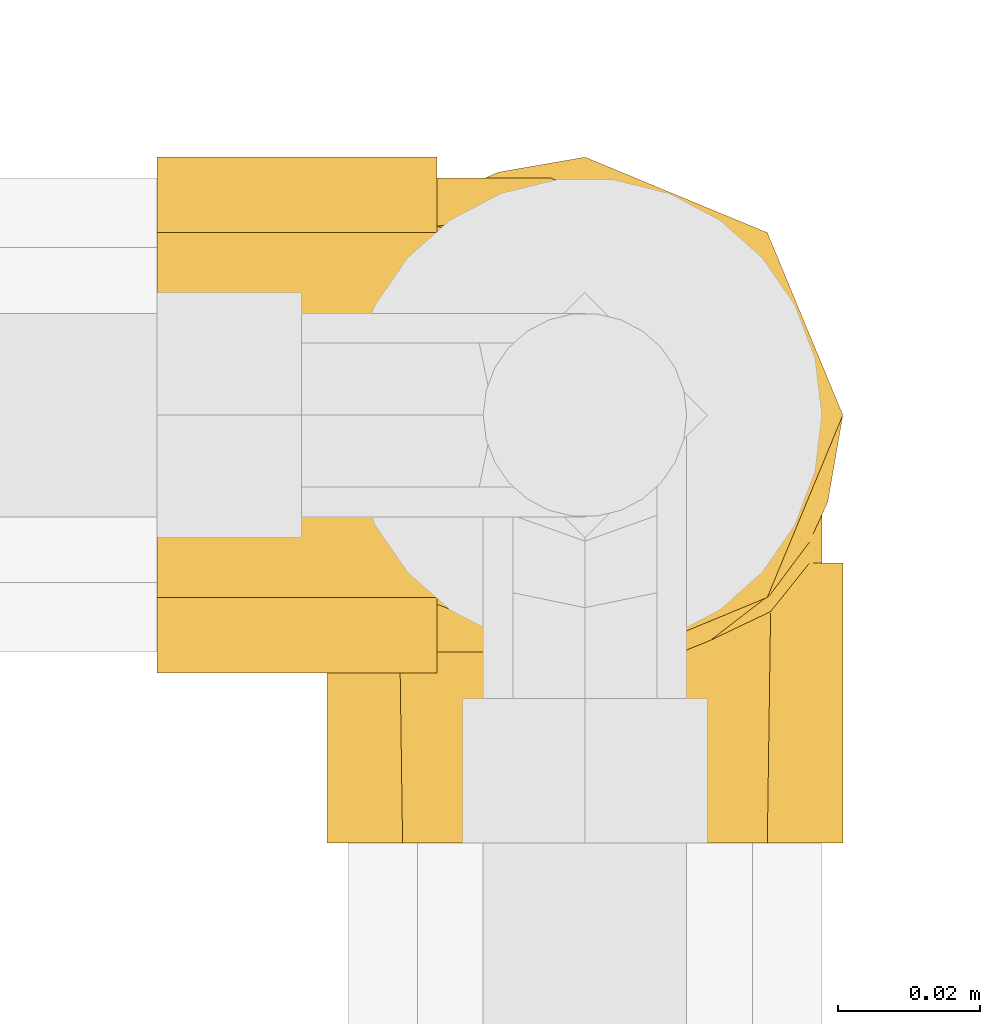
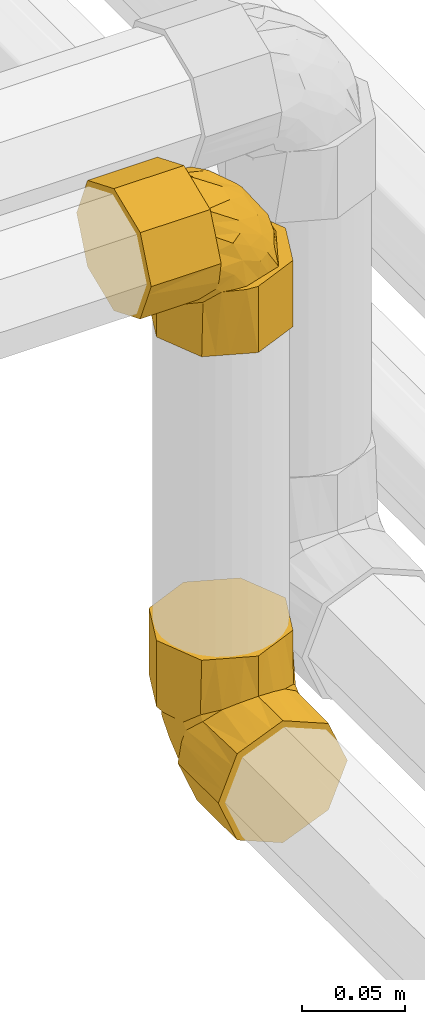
# One storey, part 264 of 652: 2 coverings.
"""IFC2X3 building model written with IfcOpenShell, lengths in millimetres."""

from ifc_helpers import new_model, entity, si_unit, converted_unit, direction, frame, origin, place, context, subcontext, project, spatial, faceted_brep, material, type_object, element, save


model = new_model("IFC2X3")

# Units and contexts
model_context = context("Model", 3, precision=0.01, world=frame((0.0, 0.0, 308426.39999999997)), true_north=direction((6.123233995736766e-17, 1.0)))
plan_context = context("Plan", 3, precision=0.01, world=frame((0.0, 0.0, 308426.39999999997)), true_north=direction((6.123233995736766e-17, 1.0)))
body_context = subcontext(model_context, "Body", "Model", "MODEL_VIEW")
ifc_project = project(units=[si_unit("LENGTHUNIT", "METRE", prefix="MILLI"), si_unit("AREAUNIT", "SQUARE_METRE"), si_unit("VOLUMEUNIT", "CUBIC_METRE"), converted_unit("PLANEANGLEUNIT", "DEGREE", entity("IfcPlaneAngleMeasure", 0.017453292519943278), si_unit("PLANEANGLEUNIT", "RADIAN"), dimensions=[0, 0, 0, 0, 0, 0, 0])], contexts=[model_context, plan_context])

# Site, building, storey
site_placement = place(None, origin())
site = spatial("IfcSite", under=ifc_project, at=site_placement, Name="Default", CompositionType="ELEMENT")
building_placement = place(site_placement, origin())
building = spatial("IfcBuilding", under=site, at=building_placement, CompositionType="ELEMENT")
storey_placement = place(building_placement, frame((0.0, 0.0, 1730.6999999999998)))
storey = spatial("IfcBuildingStorey", under=building, at=storey_placement, Name="EG_Produktion_FFB", CompositionType="ELEMENT", Elevation=1730.6999999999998)

# Coverings
ifc_material = material(Name="Dämmung - Armaflex-Schlauch")
covering_type = type_object("IfcCoveringType", Name="Rohrdämmung außen:Armaflex-Schlauch", PredefinedType="INSULATION")
covering_1_placement = place(storey_placement, frame((77519.9492499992, 68027.20272776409, 3937.7972722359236)))
element("IfcCovering", 1, at=covering_1_placement, inside=storey, type_object=covering_type, material=ifc_material, Name="Rohrdämmung außen:Armaflex-Schlauch", ObjectType="Rohrdämmung außen:Armaflex-Schlauch", PredefinedType="INSULATION", context=body_context, shape_type="Brep", body=[
    faceted_brep([(39.259249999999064, 3.715783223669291, -50.005339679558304), (39.259249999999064, 6.296879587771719, -55.63851846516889), (39.259249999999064, 4.988212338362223, -49.19061548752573), (39.259249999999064, 4.509772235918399, -42.62645720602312), (39.259249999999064, 7.8789883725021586, -34.865778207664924), (39.259249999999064, 11.248204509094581, -27.105099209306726), (39.259249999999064, 13.864245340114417, -21.079290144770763), (39.259249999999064, 16.480286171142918, -15.053481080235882), (39.259249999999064, 27.138779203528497, -11.03819792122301), (39.259249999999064, 37.79727223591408, -7.022914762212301), (39.259249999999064, 44.42865853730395, -10.462020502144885), (39.259249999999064, 51.060044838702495, -13.90112624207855), (39.259249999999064, 57.69143114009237, -17.340231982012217), (39.259249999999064, 64.32281744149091, -20.779337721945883), (39.259249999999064, 66.43186809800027, -27.593444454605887), (39.259249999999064, 68.54091875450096, -34.40755118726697), (39.259249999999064, 71.08477223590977, -42.62645720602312), (39.259249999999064, 70.60633213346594, -49.19061548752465), (39.259249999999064, 69.29766488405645, -55.63851846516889), (39.259249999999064, 73.46326541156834, -44.00386025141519), (39.259249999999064, 73.99927223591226, -37.797272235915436), (39.259249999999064, 70.84694562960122, -30.186882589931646), (39.259249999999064, 68.69761208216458, -24.99793238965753), (39.2592499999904, 66.04678200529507, -18.59826246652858), (39.259249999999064, 63.39595192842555, -12.19859254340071), (39.259249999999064, 56.996282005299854, -9.547762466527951), (39.259249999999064, 50.59661208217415, -6.8969323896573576), (39.25925000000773, 44.19694215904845, -4.246102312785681), (39.259249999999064, 37.79727223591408, -1.5952722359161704), (39.259249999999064, 30.186882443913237, -4.747598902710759), (39.259249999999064, 24.99793238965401, -6.896932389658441), (39.2592499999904, 18.598262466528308, -9.547762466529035), (39.259249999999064, 12.198592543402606, -12.19859254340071), (39.259249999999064, 9.547762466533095, -18.59826246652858), (39.259249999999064, 6.896932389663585, -24.99793238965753), (39.259249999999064, 4.2461023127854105, -31.397602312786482), (39.259249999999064, 1.5952722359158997, -37.797272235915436), (0.0, 71.3484421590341, -44.19694215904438), (0.0, 68.69761208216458, -50.59661208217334), (0.0, 66.04678200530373, -56.99628200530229), (0.0, 63.39595192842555, -63.39595192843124), (0.0, 56.996282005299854, -66.04678200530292), (0.0, 50.59661208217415, -68.6976120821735), (0.0, 44.19694215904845, -71.3484421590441), (0.0, 37.79727223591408, -73.99927223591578), (0.0, 31.397602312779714, -71.3484421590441), (0.0, 24.99793238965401, -68.69761208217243), (0.0, 18.598262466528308, -66.04678200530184), (0.0, 12.198592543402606, -63.39595192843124), (0.0, 9.547762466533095, -56.996282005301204), (0.0, 6.896932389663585, -50.59661208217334), (0.0, 4.2461023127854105, -44.19694215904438), (0.0, 1.5952722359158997, -37.797272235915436), (0.0, 4.246102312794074, -31.397602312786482), (0.0, 6.896932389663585, -24.99793238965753), (0.0, 9.547762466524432, -18.59826246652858), (0.0, 12.198592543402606, -12.19859254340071), (0.0, 22.5764918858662, -7.899925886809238), (0.0, 30.186882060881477, -4.747599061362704), (0.0, 37.79727223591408, -1.5952722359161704), (0.0, 44.19694215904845, -4.246102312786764), (0.0, 50.596612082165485, -6.896932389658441), (0.0, 56.996282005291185, -9.547762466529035), (0.0, 63.39595192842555, -12.19859254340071), (0.0, 67.69461861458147, -22.576491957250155), (0.0, 70.84694542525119, -30.186882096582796), (0.0, 73.99927223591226, -37.797272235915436), (32.46668914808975, 63.85372723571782, -62.92983988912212), (25.075941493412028, 47.14326463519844, -72.77208074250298), (28.426678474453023, 55.41836482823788, -69.42134376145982), (23.848750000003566, 37.79727223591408, -73.99927223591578), (32.46668914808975, 11.740817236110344, -62.92983988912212), (25.075941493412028, 28.451279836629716, -72.77208074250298), (28.426678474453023, 20.176179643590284, -69.42134376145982), (60.05075000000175, 1.5952722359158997, -58.588772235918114), (67.66113984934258, 4.747598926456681, -58.588772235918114), (72.85008984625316, 6.896932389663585, -58.588772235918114), (79.24975976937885, 9.547762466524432, -58.588772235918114), (85.64942969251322, 12.198592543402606, -58.588772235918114), (88.30025976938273, 18.598262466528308, -58.588772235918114), (90.9510898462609, 24.99793238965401, -58.588772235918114), (93.60191992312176, 31.39760231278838, -58.588772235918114), (96.25274999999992, 37.79727223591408, -58.588772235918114), (93.1004234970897, 45.4076616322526, -58.588772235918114), (90.9510898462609, 50.59661208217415, -58.588772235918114), (88.30025976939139, 56.996282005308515, -58.588772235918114), (85.64942969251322, 63.39595192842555, -58.588772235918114), (79.24975976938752, 66.04678200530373, -58.588772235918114), (72.85008984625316, 68.69761208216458, -58.588772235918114), (66.45041992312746, 71.3484421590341, -58.588772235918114), (60.05075000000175, 73.99927223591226, -58.588772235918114), (47.8439605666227, 71.87921900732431, -58.588772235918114), (42.20950377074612, 69.29766488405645, -58.588772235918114), (48.65740674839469, 70.60633213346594, -58.588772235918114), (55.22156502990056, 71.08477223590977, -58.588772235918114), (62.98224379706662, 67.71555619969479, -58.588772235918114), (70.74292256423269, 64.34634016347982, -58.588772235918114), (76.76873185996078, 61.73029923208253, -58.588772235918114), (82.79454115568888, 59.11425830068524, -58.588772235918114), (86.80982431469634, 48.455765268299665, -58.588772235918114), (90.82510747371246, 37.79727223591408, -58.588772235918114), (87.3860017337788, 31.165885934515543, -58.588772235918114), (83.94689599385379, 24.534499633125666, -58.588772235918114), (80.50779025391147, 17.903113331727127, -58.588772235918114), (77.0686845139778, 11.271727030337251, -58.588772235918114), (70.25457765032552, 9.162676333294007, -58.588772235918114), (63.440470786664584, 7.0536256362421, -58.588772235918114), (55.22156502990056, 4.509772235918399, -58.588772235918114), (48.65740674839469, 4.988212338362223, -58.588772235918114), (42.20950377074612, 6.296879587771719, -58.588772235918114), (53.84468293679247, 2.131188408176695, -58.588772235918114), (85.64942969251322, 63.39595192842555, -97.84802223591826), (89.94809658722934, 53.01805201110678, -97.84802223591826), (93.10042329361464, 45.407662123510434, -97.84802223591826), (96.25274999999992, 37.79727223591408, -97.84802223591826), (93.60191992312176, 31.39760231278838, -97.84802223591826), (90.9510898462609, 24.99793238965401, -97.84802223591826), (88.30025976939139, 18.598262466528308, -97.84802223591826), (85.64942969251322, 12.198592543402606, -97.84802223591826), (75.2715303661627, 7.89992589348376, -97.84802223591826), (67.66114018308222, 4.74759906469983, -97.84802223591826), (60.05075000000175, 1.5952722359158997, -97.84802223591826), (53.65108007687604, 4.2461023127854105, -97.84802223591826), (47.25141015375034, 6.896932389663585, -97.84802223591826), (40.851740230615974, 9.547762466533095, -97.84802223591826), (34.45207030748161, 12.198592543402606, -97.84802223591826), (31.801240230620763, 18.598262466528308, -97.84802223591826), (29.150410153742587, 24.99793238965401, -97.84802223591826), (26.499580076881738, 31.39760231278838, -97.84802223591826), (23.848750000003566, 37.79727223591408, -97.84802223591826), (26.499580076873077, 44.19694215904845, -97.84802223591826), (29.150410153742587, 50.596612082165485, -97.84802223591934), (31.8012402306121, 56.996282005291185, -97.84802223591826), (34.45207030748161, 63.39595192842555, -97.84802223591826), (40.851740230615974, 66.04678200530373, -97.84802223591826), (47.25141015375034, 68.69761208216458, -97.84802223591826), (53.65108007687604, 71.34844215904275, -97.84802223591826), (60.05075000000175, 73.99927223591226, -97.84802223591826), (66.45041992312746, 71.34844215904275, -97.84802223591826), (72.85008984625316, 68.69761208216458, -97.84802223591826), (79.24975976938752, 66.04678200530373, -97.84802223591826), (34.92195481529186, 63.85736541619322, -65.37871062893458), (34.92195481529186, 11.737179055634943, -65.37871062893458), (49.21182308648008, 68.41765541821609, -33.37826514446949), (54.64187267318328, 70.09487872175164, -44.31181452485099), (48.39608948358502, 71.08477223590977, -49.45193275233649), (43.978455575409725, 71.08477223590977, -46.15183622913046), (51.69618583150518, 71.08477223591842, -53.869566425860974), (65.06981473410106, 68.18492521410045, -48.581167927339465), (66.1389061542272, 54.93562179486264, -26.954994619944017), (58.572064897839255, 47.56074067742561, -17.083978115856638), (73.80443236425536, 46.97006507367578, -29.768819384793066), (49.861775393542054, 61.17655068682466, -21.425941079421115), (59.53238264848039, 62.0974921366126, -28.915935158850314), (50.388268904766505, 65.36681184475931, -27.507450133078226), (79.54020807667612, 53.30572130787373, -41.801553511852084), (72.0558906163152, 61.516950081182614, -41.47048891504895), (67.43859512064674, 65.29616009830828, -42.91640746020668), (53.70633184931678, 54.90236508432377, -17.983896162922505), (83.03128765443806, 45.809554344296, -42.11864422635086), (71.9339064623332, 37.79727223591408, -25.914115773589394), (53.5048282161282, 37.79727223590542, -15.2591476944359), (82.58887389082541, 37.79727223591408, -44.34319289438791), (59.25713481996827, 67.18808569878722, -38.21241052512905), (48.39608948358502, 4.509772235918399, -49.45193275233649), (43.97845557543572, 4.509772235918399, -46.151836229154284), (51.69618583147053, 4.509772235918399, -53.86956642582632), (53.536207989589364, 5.499665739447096, -43.206149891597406), (68.93208500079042, 13.497052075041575, -38.31563745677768), (56.377531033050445, 14.077594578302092, -25.79212979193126), (54.931613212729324, 10.298384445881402, -30.40942583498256), (70.89302392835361, 20.65892246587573, -31.70911220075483), (56.04646412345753, 22.28882336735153, -18.307811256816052), (68.07919867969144, 28.624479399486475, -24.043586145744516), (55.729373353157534, 29.784989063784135, -14.816732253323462), (49.26685337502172, 7.409619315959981, -32.77820674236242), (80.76404119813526, 28.033804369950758, -39.275952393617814), (76.4220800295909, 14.417993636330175, -47.986245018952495), (70.3405712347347, 10.227732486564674, -47.459752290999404), (79.86412378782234, 20.692178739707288, -44.14168710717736), (64.46975673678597, 7.176889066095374, -48.63619855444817), (59.635610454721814, 8.406458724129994, -38.59088627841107)], [[[0, 1, 2, 3, 4, 5, 6, 7, 8, 9, 10, 11, 12, 13, 14, 15, 16, 17, 18, 19, 20, 21, 22, 23, 24, 25, 26, 27, 28, 29, 30, 31, 32, 33, 34, 35, 36]], [[37, 38, 39, 40, 41, 42, 43, 44, 45, 46, 47, 48, 49, 50, 51, 52, 53, 54, 55, 56, 57, 58, 59, 60, 61, 62, 63, 64, 65, 66]], [[41, 40, 67]], [[39, 67, 40]], [[67, 39, 18]], [[68, 42, 69]], [[69, 42, 41]], [[69, 41, 67]], [[38, 19, 18]], [[20, 19, 66]], [[43, 70, 44]], [[19, 38, 37, 66]], [[43, 42, 68]], [[70, 43, 68]], [[39, 38, 18]], [[66, 65, 64, 63, 24, 23, 22, 21, 20]], [[24, 63, 62, 61, 60, 59, 28, 27, 26, 25]], [[29, 28, 59, 58, 57, 56, 32, 31, 30]], [[32, 56, 55, 54, 53, 52, 36, 35, 34, 33]], [[71, 1, 49]], [[0, 50, 1]], [[1, 50, 49]], [[72, 46, 45]], [[71, 49, 48]], [[47, 71, 48]], [[36, 51, 0]], [[70, 45, 44]], [[51, 50, 0]], [[73, 46, 72]], [[71, 47, 73]], [[45, 70, 72]], [[51, 36, 52]], [[47, 46, 73]], [[74, 75, 76, 77, 78, 79, 80, 81, 82, 83, 84, 85, 86, 87, 88, 89, 90, 91, 92, 93, 94, 95, 96, 97, 98, 99, 100, 101, 102, 103, 104, 105, 106, 107, 108, 109, 110]], [[111, 112, 113, 114, 115, 116, 117, 118, 119, 120, 121, 122, 123, 124, 125, 126, 127, 128, 129, 130, 131, 132, 133, 134, 135, 136, 137, 138, 139, 140]], [[114, 113, 112, 111, 86, 85, 84, 83, 82]], [[86, 111, 140, 139, 138, 137, 90, 89, 88, 87]], [[141, 92, 134]], [[91, 135, 92]], [[68, 131, 130]], [[134, 133, 141]], [[132, 141, 133]], [[136, 135, 91]], [[90, 136, 91]], [[70, 130, 129]], [[136, 90, 137]], [[69, 131, 68]], [[141, 132, 69]], [[130, 70, 68]], [[92, 135, 134]], [[132, 131, 69]], [[126, 125, 142]], [[124, 142, 125]], [[142, 124, 109]], [[72, 127, 73]], [[73, 127, 126]], [[73, 126, 142]], [[123, 110, 109]], [[74, 110, 121]], [[128, 70, 129]], [[110, 123, 122, 121]], [[128, 127, 72]], [[70, 128, 72]], [[124, 123, 109]], [[75, 74, 121, 120, 119, 118, 78, 77, 76]], [[78, 118, 117, 116, 115, 114, 82, 81, 80, 79]], [[15, 143, 144]], [[144, 145, 146, 16]], [[144, 94, 147, 145]], [[96, 95, 148]], [[149, 150, 151]], [[152, 153, 154]], [[149, 155, 156]], [[153, 156, 157]], [[152, 158, 153]], [[16, 15, 144]], [[151, 159, 155]], [[96, 148, 157]], [[151, 155, 149]], [[153, 149, 156]], [[156, 97, 157]], [[160, 159, 151]], [[98, 156, 155]], [[99, 98, 155]], [[160, 150, 161]], [[99, 159, 100]], [[159, 160, 162, 100]], [[160, 151, 150]], [[150, 11, 10]], [[150, 149, 158]], [[10, 161, 150]], [[9, 161, 10]], [[99, 155, 159]], [[143, 15, 14]], [[152, 13, 12]], [[158, 12, 11]], [[150, 158, 11]], [[153, 158, 149]], [[158, 152, 12]], [[154, 163, 143]], [[154, 143, 14]], [[154, 13, 152]], [[143, 163, 144]], [[148, 144, 163]], [[94, 144, 95]], [[154, 14, 13]], [[163, 154, 153]], [[144, 148, 95]], [[157, 148, 163]], [[153, 157, 163]], [[156, 98, 97]], [[96, 157, 97]], [[18, 17, 145]], [[67, 141, 69]], [[141, 67, 18]], [[17, 16, 146, 145]], [[147, 94, 93, 145]], [[141, 18, 92]], [[93, 92, 145]], [[92, 18, 145]], [[164, 1, 109]], [[2, 164, 165, 3]], [[164, 2, 1]], [[1, 71, 142]], [[142, 109, 1]], [[108, 107, 166, 164]], [[108, 164, 109]], [[142, 71, 73]], [[107, 106, 167]], [[168, 169, 170]], [[171, 172, 169]], [[173, 172, 171]], [[167, 164, 166, 107]], [[173, 174, 172]], [[175, 170, 5]], [[168, 171, 169]], [[167, 3, 165, 164]], [[176, 173, 171]], [[177, 168, 178]], [[5, 4, 175]], [[177, 179, 168]], [[106, 180, 167]], [[169, 6, 170]], [[160, 174, 173]], [[7, 169, 172]], [[8, 7, 172]], [[160, 176, 162]], [[8, 174, 9]], [[174, 160, 161, 9]], [[160, 173, 176]], [[176, 102, 101]], [[176, 171, 179]], [[101, 162, 176]], [[100, 162, 101]], [[8, 172, 174]], [[180, 106, 105]], [[177, 104, 103]], [[179, 103, 102]], [[176, 179, 102]], [[168, 179, 171]], [[179, 177, 103]], [[178, 181, 180]], [[178, 180, 105]], [[178, 104, 177]], [[180, 181, 167]], [[175, 167, 181]], [[3, 167, 4]], [[178, 105, 104]], [[181, 178, 168]], [[167, 175, 4]], [[170, 175, 181]], [[168, 170, 181]], [[169, 7, 6]], [[5, 170, 6]]]),
])
covering_2_placement = place(storey_placement, frame((77542.20272776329, 68004.94925, 3562.2027277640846)))
element("IfcCovering", 2, at=covering_2_placement, inside=storey, type_object=covering_type, material=ifc_material, Name="Rohrdämmung außen:Armaflex-Schlauch", ObjectType="Rohrdämmung außen:Armaflex-Schlauch", PredefinedType="INSULATION", context=body_context, shape_type="Brep", body=[
    faceted_brep([(71.87921900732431, 47.84396056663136, 58.588772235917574), (69.29766488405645, 42.20950377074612, 58.588772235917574), (70.60633213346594, 48.65740674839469, 58.588772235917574), (71.08477223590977, 55.22156502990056, 58.588772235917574), (67.71555609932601, 62.98224402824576, 58.588772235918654), (64.34633996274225, 70.74292302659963, 58.588772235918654), (61.73029913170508, 76.76873209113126, 58.588772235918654), (59.11425830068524, 82.79454115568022, 58.588772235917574), (48.455765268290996, 86.809824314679, 58.588772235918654), (37.79727223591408, 90.82510747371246, 58.588772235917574), (31.16766916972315, 87.38848086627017, 58.588772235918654), (24.53806610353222, 83.95185425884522, 58.588772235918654), (17.90846303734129, 80.51522765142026, 58.588772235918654), (11.278859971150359, 77.07860104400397, 58.588772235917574), (9.166908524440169, 70.25921848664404, 58.588772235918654), (7.054957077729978, 63.43983592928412, 58.58877223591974), (4.509772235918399, 55.22156502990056, 58.588772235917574), (4.988212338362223, 48.65740674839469, 58.588772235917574), (6.296879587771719, 42.20950377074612, 58.588772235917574), (2.131188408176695, 53.84468293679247, 58.588772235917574), (1.5952722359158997, 60.05075000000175, 58.588772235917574), (4.747598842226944, 67.66113964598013, 58.588772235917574), (6.896932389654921, 72.85008984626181, 58.588772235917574), (9.547762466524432, 79.24975976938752, 58.58877223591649), (12.198592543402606, 85.64942969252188, 58.588772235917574), (18.598262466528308, 88.30025976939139, 58.588772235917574), (24.997932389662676, 90.95108984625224, 58.588772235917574), (31.39760231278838, 93.60191992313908, 58.588772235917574), (37.79727223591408, 96.25274999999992, 58.588772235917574), (45.407662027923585, 93.10042333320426, 58.588772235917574), (50.596612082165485, 90.95108984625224, 58.58877223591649), (56.996282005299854, 88.30025976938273, 58.588772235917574), (63.39595192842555, 85.64942969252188, 58.588772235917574), (66.04678200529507, 79.24975976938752, 58.588772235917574), (68.69761208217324, 72.85008984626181, 58.588772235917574), (71.34844215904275, 66.45041992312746, 58.588772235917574), (73.99927223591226, 60.05075000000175, 58.588772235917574), (12.198592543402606, 34.452070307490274, 97.84802223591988), (18.598262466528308, 31.801240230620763, 97.84802223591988), (24.997932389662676, 29.150410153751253, 97.84802223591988), (31.39760231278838, 26.499580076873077, 97.84802223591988), (37.79727223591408, 23.848750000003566, 97.84802223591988), (44.196942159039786, 26.499580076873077, 97.84802223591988), (50.596612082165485, 29.150410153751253, 97.84802223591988), (56.996282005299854, 31.801240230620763, 97.84802223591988), (63.39595192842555, 34.452070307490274, 97.84802223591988), (66.04678200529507, 40.851740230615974, 97.84802223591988), (68.69761208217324, 47.25141015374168, 97.84802223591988), (71.3484421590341, 53.65108007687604, 97.84802223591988), (73.99927223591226, 60.05075000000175, 97.84802223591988), (71.3484421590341, 66.45041992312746, 97.84802223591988), (68.69761208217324, 72.85008984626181, 97.84802223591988), (66.04678200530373, 79.24975976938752, 97.84802223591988), (63.39595192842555, 85.64942969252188, 97.84802223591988), (53.01805258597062, 89.9480963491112, 97.84802223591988), (45.40766241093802, 93.10042317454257, 97.84802223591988), (37.79727223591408, 96.25274999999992, 97.84802223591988), (31.39760231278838, 93.60191992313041, 97.84802223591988), (24.99793238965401, 90.95108984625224, 97.84802223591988), (18.598262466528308, 88.30025976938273, 97.84802223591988), (12.198592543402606, 85.64942969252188, 97.84802223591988), (7.899925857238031, 75.27153027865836, 97.84802223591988), (4.747599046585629, 67.66114013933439, 97.84802223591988), (1.5952722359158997, 60.05075000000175, 97.84802223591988), (4.246102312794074, 53.65108007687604, 97.84802223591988), (6.896932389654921, 47.25141015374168, 97.84802223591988), (9.547762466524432, 40.851740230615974, 97.84802223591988), (11.740817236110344, 34.91818234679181, 65.38133308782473), (28.451279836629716, 25.075941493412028, 72.77208074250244), (20.176179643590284, 28.426678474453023, 69.42134376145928), (37.79727223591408, 23.848750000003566, 73.99927223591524), (63.85372723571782, 34.91818234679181, 65.38133308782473), (47.14326463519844, 25.075941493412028, 72.77208074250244), (55.41836482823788, 28.426678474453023, 69.42134376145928), (73.99927223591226, 39.259249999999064, 37.79727223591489), (70.84694554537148, 39.259249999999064, 30.186882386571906), (68.69761208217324, 39.259249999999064, 24.99793238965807), (66.04678200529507, 39.2592499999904, 18.598262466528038), (63.39595192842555, 39.259249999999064, 12.198592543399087), (56.996282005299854, 39.259249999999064, 9.547762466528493), (50.596612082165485, 39.259249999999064, 6.896932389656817), (44.196942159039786, 39.259249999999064, 4.246102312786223), (37.79727223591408, 39.259249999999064, 1.5952722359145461), (30.1868828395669, 39.25925000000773, 4.747598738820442), (24.997932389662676, 39.259249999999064, 6.896932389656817), (18.598262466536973, 39.259249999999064, 9.547762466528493), (12.198592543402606, 39.259249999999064, 12.198592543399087), (9.547762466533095, 39.2592499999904, 18.598262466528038), (6.896932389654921, 39.259249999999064, 24.997932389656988), (4.246102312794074, 39.2592499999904, 31.397602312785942), (1.5952722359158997, 39.259249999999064, 37.79727223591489), (3.7153254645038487, 39.259249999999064, 50.004061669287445), (6.296879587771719, 39.259249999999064, 55.63851846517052), (4.988212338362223, 39.259249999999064, 49.190615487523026), (4.509772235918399, 39.259249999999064, 42.626457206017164), (7.88008535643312, 39.25925000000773, 34.866483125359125), (11.25039847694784, 39.259249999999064, 27.10650904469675), (13.869352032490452, 39.259249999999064, 21.076502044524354), (16.488305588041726, 39.259249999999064, 15.046495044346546), (27.14278891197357, 39.2592499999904, 11.034704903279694), (37.79727223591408, 39.259249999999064, 7.02291476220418), (44.42865853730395, 39.259249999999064, 10.462020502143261), (51.060044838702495, 39.259249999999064, 13.901126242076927), (57.69143114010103, 39.25925000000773, 17.340231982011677), (64.32281744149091, 39.259249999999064, 20.77933772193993), (66.43186813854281, 39.259249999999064, 27.59344458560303), (68.54091883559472, 39.259249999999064, 34.407551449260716), (71.08477223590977, 39.259249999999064, 42.626457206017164), (70.60633213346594, 39.259249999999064, 49.190615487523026), (69.29766488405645, 39.259249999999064, 55.63851846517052), (73.46335606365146, 39.259249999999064, 44.00333929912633), (4.246102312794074, 0.0, 31.397602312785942), (6.896932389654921, 0.0, 24.997932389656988), (9.547762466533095, 0.0, 18.598262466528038), (12.198592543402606, 0.0, 12.198592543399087), (22.576492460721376, 0.0, 7.899925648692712), (30.186882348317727, 0.0, 4.747598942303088), (37.79727223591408, 0.0, 1.5952722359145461), (44.196942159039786, 0.0, 4.246102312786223), (50.596612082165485, 0.0, 6.896932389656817), (56.996282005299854, 0.0, 9.547762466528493), (63.39595192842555, 0.0, 12.198592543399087), (67.69461857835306, 0.0, 22.576491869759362), (70.846945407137, 0.0, 30.186882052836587), (73.99927223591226, 0.0, 37.79727223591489), (71.34844215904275, 0.0, 44.19694215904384), (68.69761208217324, 0.0, 50.5966120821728), (66.04678200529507, 0.0, 56.996282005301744), (63.39595192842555, 0.0, 63.39595192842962), (56.996282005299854, 0.0, 66.0467820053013), (50.596612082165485, 0.0, 68.69761208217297), (44.19694215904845, 0.0, 71.34844215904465), (37.79727223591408, 0.0, 73.99927223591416), (31.39760231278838, 0.0, 71.34844215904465), (24.99793238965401, 0.0, 68.69761208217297), (18.598262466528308, 0.0, 66.0467820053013), (12.198592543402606, 0.0, 63.39595192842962), (9.547762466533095, 0.0, 56.996282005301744), (6.896932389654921, 0.0, 50.5966120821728), (4.246102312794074, 0.0, 44.19694215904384), (1.5952722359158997, 0.0, 37.79727223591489), (11.737179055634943, 32.46931160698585, 62.926067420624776), (63.85736541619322, 32.46931160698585, 62.926067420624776), (7.177794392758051, 64.47336868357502, 48.63783883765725), (5.499599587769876, 53.54260043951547, 43.212707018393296), (4.509772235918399, 48.39608948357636, 49.45193275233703), (4.509772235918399, 51.69618600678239, 53.86956666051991), (4.509772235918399, 43.97845581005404, 46.15183640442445), (7.409565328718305, 49.26703766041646, 32.77846985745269), (20.658699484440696, 70.8833285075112, 31.698613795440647), (28.03664899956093, 80.75349698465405, 39.257675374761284), (28.624831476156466, 68.06292306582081, 24.028919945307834), (14.425393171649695, 76.42875537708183, 47.983256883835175), (13.497141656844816, 68.93531566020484, 38.31948929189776), (10.228050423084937, 70.34021869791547, 47.45825483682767), (22.273876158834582, 56.04623238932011, 18.31687023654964), (14.075076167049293, 56.37699654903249, 25.79487567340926), (10.297293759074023, 54.931846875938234, 30.41158195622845), (20.69904166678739, 79.8641062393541, 44.133258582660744), (29.773051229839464, 55.68952897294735, 14.797636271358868), (37.79727223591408, 71.93390646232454, 25.914115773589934), (37.79727223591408, 82.58887454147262, 44.3431940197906), (37.79727223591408, 53.50482934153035, 15.259148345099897), (8.406242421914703, 59.63531299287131, 38.59116402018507), (71.08477223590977, 48.39608948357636, 49.45193275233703), (71.0847722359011, 51.6961860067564, 53.8695666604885), (71.08477223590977, 43.97845581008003, 46.15183640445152), (70.09487873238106, 54.6418723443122, 44.311814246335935), (62.097492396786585, 59.532384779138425, 28.915937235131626), (61.51694989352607, 72.05589244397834, 41.470491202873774), (65.2961600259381, 67.43859640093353, 42.91640902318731), (54.93562200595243, 66.13891003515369, 26.954998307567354), (53.30572110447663, 79.54021097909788, 41.80155811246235), (46.97006507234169, 73.80443609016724, 29.768823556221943), (45.809555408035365, 83.03128998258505, 42.11864888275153), (68.18492515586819, 65.0698154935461, 48.58116886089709), (47.5607401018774, 58.572069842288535, 17.083981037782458), (61.176550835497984, 49.861777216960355, 21.42594220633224), (65.36681198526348, 50.38826994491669, 27.50745100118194), (54.90236573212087, 53.706335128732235, 17.98389844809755), (68.41765540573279, 49.211823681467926, 33.378265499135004), (67.18808574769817, 59.257135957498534, 38.21241178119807)], [[[0, 1, 2, 3, 4, 5, 6, 7, 8, 9, 10, 11, 12, 13, 14, 15, 16, 17, 18, 19, 20, 21, 22, 23, 24, 25, 26, 27, 28, 29, 30, 31, 32, 33, 34, 35, 36]], [[37, 38, 39, 40, 41, 42, 43, 44, 45, 46, 47, 48, 49, 50, 51, 52, 53, 54, 55, 56, 57, 58, 59, 60, 61, 62, 63, 64, 65, 66]], [[38, 37, 67]], [[66, 67, 37]], [[67, 66, 18]], [[68, 39, 69]], [[69, 39, 38]], [[69, 38, 67]], [[65, 19, 18]], [[20, 19, 63]], [[40, 70, 41]], [[19, 65, 64, 63]], [[40, 39, 68]], [[70, 40, 68]], [[66, 65, 18]], [[63, 62, 61, 60, 24, 23, 22, 21, 20]], [[24, 60, 59, 58, 57, 56, 28, 27, 26, 25]], [[29, 28, 56, 55, 54, 53, 32, 31, 30]], [[32, 53, 52, 51, 50, 49, 36, 35, 34, 33]], [[71, 1, 46]], [[0, 47, 1]], [[1, 47, 46]], [[72, 43, 42]], [[71, 46, 45]], [[44, 71, 45]], [[36, 48, 0]], [[70, 42, 41]], [[48, 47, 0]], [[73, 43, 72]], [[71, 44, 73]], [[42, 70, 72]], [[48, 36, 49]], [[44, 43, 73]], [[74, 75, 76, 77, 78, 79, 80, 81, 82, 83, 84, 85, 86, 87, 88, 89, 90, 91, 92, 93, 94, 95, 96, 97, 98, 99, 100, 101, 102, 103, 104, 105, 106, 107, 108, 109, 110]], [[111, 112, 113, 114, 115, 116, 117, 118, 119, 120, 121, 122, 123, 124, 125, 126, 127, 128, 129, 130, 131, 132, 133, 134, 135, 136, 137, 138, 139, 140]], [[117, 116, 115, 114, 86, 85, 84, 83, 82]], [[86, 114, 113, 112, 111, 140, 90, 89, 88, 87]], [[141, 92, 137]], [[91, 138, 92]], [[68, 134, 133]], [[137, 136, 141]], [[135, 141, 136]], [[139, 138, 91]], [[90, 139, 91]], [[70, 133, 132]], [[139, 90, 140]], [[69, 134, 68]], [[141, 135, 69]], [[133, 70, 68]], [[92, 138, 137]], [[135, 134, 69]], [[129, 128, 142]], [[127, 142, 128]], [[142, 127, 109]], [[72, 130, 73]], [[73, 130, 129]], [[73, 129, 142]], [[126, 110, 109]], [[74, 110, 124]], [[131, 70, 132]], [[110, 126, 125, 124]], [[131, 130, 72]], [[70, 131, 72]], [[127, 126, 109]], [[75, 74, 124, 123, 122, 121, 78, 77, 76]], [[78, 121, 120, 119, 118, 117, 82, 81, 80, 79]], [[15, 143, 144]], [[144, 145, 146, 16]], [[144, 94, 147, 145]], [[96, 95, 148]], [[149, 150, 151]], [[152, 153, 154]], [[149, 155, 156]], [[153, 156, 157]], [[152, 158, 153]], [[16, 15, 144]], [[151, 159, 155]], [[96, 148, 157]], [[151, 155, 149]], [[153, 149, 156]], [[156, 97, 157]], [[160, 159, 151]], [[98, 156, 155]], [[99, 98, 155]], [[160, 150, 161]], [[99, 159, 100]], [[159, 160, 162, 100]], [[160, 151, 150]], [[150, 11, 10]], [[150, 149, 158]], [[10, 161, 150]], [[9, 161, 10]], [[99, 155, 159]], [[143, 15, 14]], [[152, 13, 12]], [[158, 12, 11]], [[150, 158, 11]], [[153, 158, 149]], [[158, 152, 12]], [[154, 163, 143]], [[154, 143, 14]], [[154, 13, 152]], [[143, 163, 144]], [[148, 144, 163]], [[94, 144, 95]], [[154, 14, 13]], [[163, 154, 153]], [[144, 148, 95]], [[157, 148, 163]], [[153, 157, 163]], [[156, 98, 97]], [[96, 157, 97]], [[18, 17, 145]], [[67, 141, 69]], [[141, 67, 18]], [[17, 16, 146, 145]], [[147, 94, 93, 145]], [[141, 18, 92]], [[93, 92, 145]], [[92, 18, 145]], [[164, 1, 109]], [[2, 164, 165, 3]], [[164, 2, 1]], [[1, 71, 142]], [[142, 109, 1]], [[108, 107, 166, 164]], [[108, 164, 109]], [[142, 71, 73]], [[107, 106, 167]], [[168, 169, 170]], [[171, 172, 169]], [[173, 172, 171]], [[167, 164, 166, 107]], [[173, 174, 172]], [[175, 170, 5]], [[168, 171, 169]], [[167, 3, 165, 164]], [[176, 173, 171]], [[177, 168, 178]], [[5, 4, 175]], [[177, 179, 168]], [[106, 180, 167]], [[169, 6, 170]], [[160, 174, 173]], [[7, 169, 172]], [[8, 7, 172]], [[160, 176, 162]], [[8, 174, 9]], [[174, 160, 161, 9]], [[160, 173, 176]], [[176, 102, 101]], [[176, 171, 179]], [[101, 162, 176]], [[100, 162, 101]], [[8, 172, 174]], [[180, 106, 105]], [[177, 104, 103]], [[179, 103, 102]], [[176, 179, 102]], [[168, 179, 171]], [[179, 177, 103]], [[178, 181, 180]], [[178, 180, 105]], [[178, 104, 177]], [[180, 181, 167]], [[175, 167, 181]], [[3, 167, 4]], [[178, 105, 104]], [[181, 178, 168]], [[167, 175, 4]], [[170, 175, 181]], [[168, 170, 181]], [[169, 7, 6]], [[5, 170, 6]]]),
])

save(model, "model.ifc")
